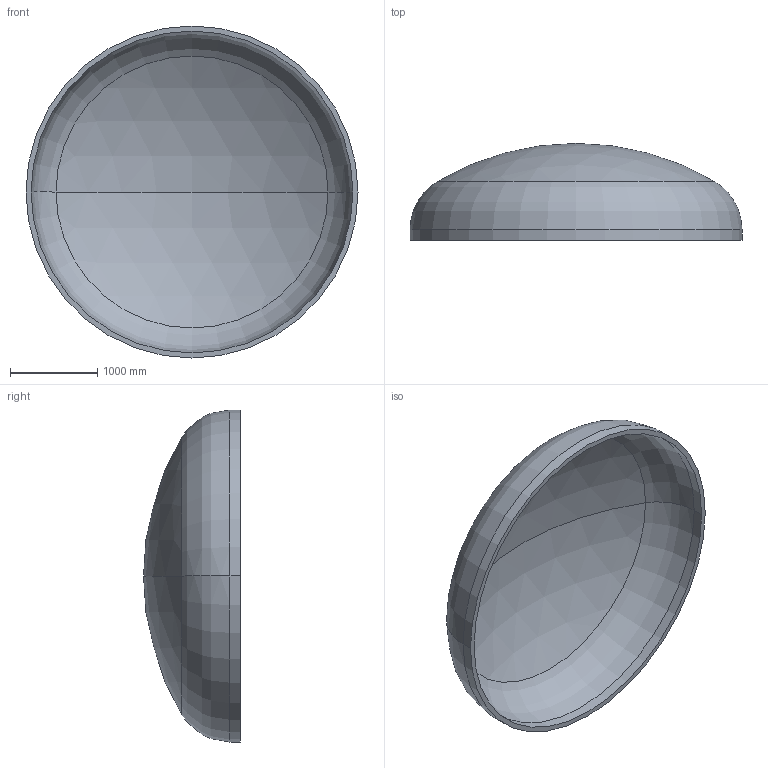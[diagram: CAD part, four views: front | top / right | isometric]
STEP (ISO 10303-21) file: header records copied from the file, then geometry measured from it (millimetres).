
FILE_DESCRIPTION (( 'STEP AP203' ), '1' );
FILE_NAME ('DIN 28013 Korbbogenform_-_Boden DIN 28013 - 3800 x 120 - I - s=58.step', '2016-07-01T21:32:37', ( '' ), ( '' ), 'SwSTEP 2.0', 'SolidWorks 2013', '' );
FILE_SCHEMA (( 'CONFIG_CONTROL_DESIGN' ));
Length unit declared in the file: millimetre
Products named in the file (1): DIN 28013 Korbbogenform_-_Boden DIN 28013 - 3800 x 120 - I - s=58
Bounding box: 3800 x 1109.21 x 3800 mm (x, y, z)
Volume: 974608752.8 mm3; surface area: 34296070.6 mm2
Topology: 1 solids, 1 shells, 13 faces, 24 edges, 14 vertices
Faces by surface type: torus 4, cylinder 4, sphere 4, plane 1
Entity records: 407 total; most frequent: DIRECTION 72, CARTESIAN_POINT 52, ORIENTED_EDGE 48, AXIS2_PLACEMENT_3D 34, EDGE_CURVE 24, CIRCLE 20, VERTEX_POINT 14, EDGE_LOOP 14
